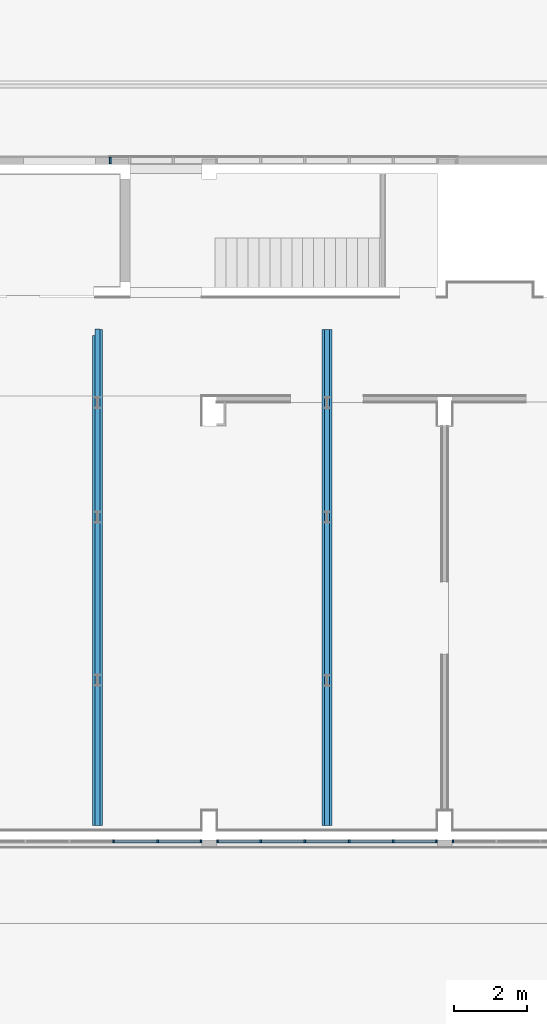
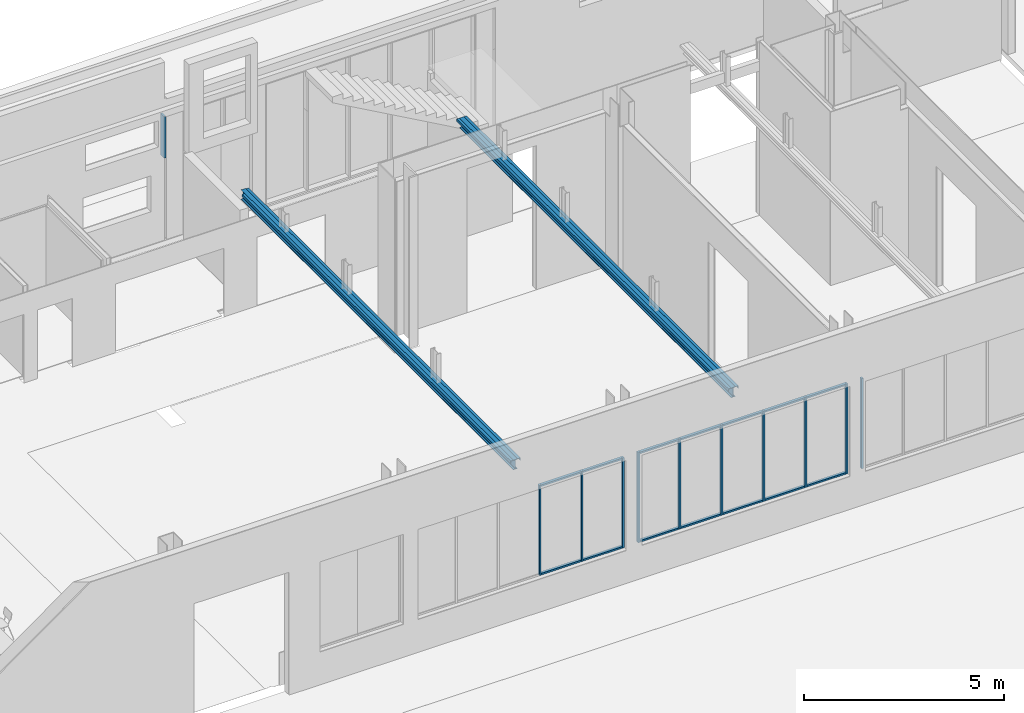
# One storey, part 3 of 27: 25 members, 6 beams, 4 elements without a shape of their own.
"""IFC2X3 building model written with IfcOpenShell, lengths in centimetres."""

import ifcopenshell
import ifcopenshell.guid

model = None  # the IFC model being written
_history = None  # IfcOwnerHistory: only IFC2X3 demands one
_inside = {}  # id of a spatial element -> (the spatial element, [elements in it])
_under = {}  # id of a project, library or spatial element -> (it, [spatial elements below it])
_declared = {}  # id of a project -> (the project, [libraries it declares])
_typed = {}  # id of a type object -> (the type object, [elements of that type])
_made_of = {}  # id of a material, layer set ... -> (it, [elements and type objects made of it])


def new_model(schema):
    """Start an empty IFC model of exactly this schema.

    Asked for "IFC4X3", IfcOpenShell would pick the latest addendum, in which some entities
    have other attributes; the version numbers below select the first issue.
    IFC2X3 requires an IfcOwnerHistory on every rooted entity: one is made here for all.
    """
    global model, _history
    if schema == "IFC4X3":
        model = ifcopenshell.file(schema_version=(4, 3, 0, 0))
    else:
        model = ifcopenshell.file(schema=schema)
    _inside.clear()
    _under.clear()
    _declared.clear()
    _typed.clear()
    _made_of.clear()
    _history = None
    if model.schema == "IFC2X3":
        org = make("IfcOrganization", Name="unknown")
        user = make(
            "IfcPersonAndOrganization",
            ThePerson=make("IfcPerson", FamilyName="unknown"),
            TheOrganization=org,
        )
        app = make(
            "IfcApplication",
            ApplicationDeveloper=org,
            Version="unknown",
            ApplicationFullName="unknown",
            ApplicationIdentifier="unknown",
        )
        _history = make(
            "IfcOwnerHistory",
            OwningUser=user,
            OwningApplication=app,
            ChangeAction="ADDED",
            CreationDate=0,
        )
    return model


def make(cls, **values):
    """One entity of the class cls with the attributes given. An attribute that is None is left unset."""
    return model.create_entity(
        cls, **{name: value for name, value in values.items() if value is not None}
    )


def entity(cls, *values):
    """Any entity or typed value of the class cls, its attributes in the order of the schema. None: left unset."""
    e = model.create_entity(cls)
    for i, value in enumerate(values):
        if value is not None:
            e[i] = value
    return e


def rooted(cls, **values):
    """An entity with a GlobalId (a new one), such as an element, a storey or a relation."""
    return make(cls, GlobalId=ifcopenshell.guid.new(), OwnerHistory=_history, **values)


def si_unit(unit_type, name, prefix=None):
    """IfcSIUnit, for example si_unit("LENGTHUNIT", "METRE", prefix="MILLI")."""
    return make("IfcSIUnit", UnitType=unit_type, Prefix=prefix, Name=name)


def converted_unit(unit_type, name, factor, base, dimensions=None, offset=None):
    """IfcConversionBasedUnit, such as the inch: factor (a typed value) times the base unit."""
    return make(
        "IfcConversionBasedUnit"
        if offset is None
        else "IfcConversionBasedUnitWithOffset",
        ConversionOffset=offset,
        Dimensions=None
        if dimensions is None
        else entity("IfcDimensionalExponents", *dimensions),
        UnitType=unit_type,
        Name=name,
        ConversionFactor=make(
            "IfcMeasureWithUnit", ValueComponent=factor, UnitComponent=base
        ),
    )


def derived_unit(unit_type, elements):
    """IfcDerivedUnit: a product of units, each with its exponent."""
    return make(
        "IfcDerivedUnit",
        Elements=[
            make("IfcDerivedUnitElement", Unit=unit, Exponent=power)
            for unit, power in elements
        ],
        UnitType=unit_type,
    )


def assignment(units):
    """IfcUnitAssignment: the units of a project."""
    return None if units is None else make("IfcUnitAssignment", Units=units)


def point(xyz):
    """IfcCartesianPoint."""
    return None if xyz is None else make("IfcCartesianPoint", Coordinates=xyz)


def direction(xyz):
    """IfcDirection."""
    return None if xyz is None else make("IfcDirection", DirectionRatios=xyz)


def frame(location, z_axis=None, x_axis=None):
    """IfcAxis2Placement3D, a coordinate frame: its origin and axes. An axis left out is left unset."""
    return make(
        "IfcAxis2Placement3D",
        Location=point(location),
        Axis=direction(z_axis),
        RefDirection=direction(x_axis),
    )


def frame_2d(location, x_axis=None):
    """IfcAxis2Placement2D, a coordinate frame in the plane: its origin and x axis."""
    return make(
        "IfcAxis2Placement2D", Location=point(location), RefDirection=direction(x_axis)
    )


def origin():
    """The frame at (0, 0, 0) with its axes left unset."""
    return frame((0.0, 0.0, 0.0))


def origin_2d_with_axis():
    """The frame at (0, 0) in the plane with the x axis (1, 0) written out."""
    return frame_2d((0.0, 0.0), x_axis=(1.0, 0.0))


def place(relative_to, where):
    """IfcLocalPlacement: puts the frame where relative to a parent placement (None: the world)."""
    return make(
        "IfcLocalPlacement", PlacementRelTo=relative_to, RelativePlacement=where
    )


def context(
    kind, dimensions, precision=None, world=None, true_north=None, identifier=None
):
    """IfcGeometricRepresentationContext, for example the 3D "Model" context."""
    return make(
        "IfcGeometricRepresentationContext",
        ContextIdentifier=identifier,
        ContextType=kind,
        CoordinateSpaceDimension=dimensions,
        Precision=precision,
        WorldCoordinateSystem=world,
        TrueNorth=true_north,
    )


def subcontext(parent, identifier, kind, view, scale=None):
    """IfcGeometricRepresentationSubContext, for example "Body" below "Model"."""
    return make(
        "IfcGeometricRepresentationSubContext",
        ContextIdentifier=identifier,
        ContextType=kind,
        ParentContext=parent,
        TargetScale=scale,
        TargetView=view,
    )


def project(units=None, contexts=None):
    """IfcProject with its units and contexts."""
    return rooted(
        "IfcProject",
        Name="project",
        RepresentationContexts=contexts,
        UnitsInContext=assignment(units),
    )


def spatial(cls, under=None, at=None, **own):
    """A site, building, storey or space (cls), placed at a placement, below another one or the project."""
    s = rooted(cls, ObjectPlacement=at, **own)
    if under is not None:
        _under.setdefault(under.id(), (under, []))[1].append(s)
    return s


def polyline(points):
    """IfcPolyline through the points."""
    return make("IfcPolyline", Points=[point(p) for p in points])


def circle_curve(where, radius):
    """IfcCircle in the frame where."""
    return make("IfcCircle", Position=where, Radius=radius)


def parameter(value):
    """IfcParameterValue: where a trimmed curve begins or ends, as a parameter of its basis curve."""
    return model.create_entity("IfcParameterValue", value)


def trimmed(basis, trim1, trim2, sense, master):
    """IfcTrimmedCurve: the piece of a basis curve between two trims."""
    return make(
        "IfcTrimmedCurve",
        BasisCurve=basis,
        Trim1=trim1,
        Trim2=trim2,
        SenseAgreement=sense,
        MasterRepresentation=master,
    )


def segment(curve, same_sense, transition):
    """IfcCompositeCurveSegment."""
    return make(
        "IfcCompositeCurveSegment",
        Transition=transition,
        SameSense=same_sense,
        ParentCurve=curve,
    )


def composite_curve(segments, self_intersect=None):
    """IfcCompositeCurve: segments joined end to end."""
    return make("IfcCompositeCurve", Segments=segments, SelfIntersect=self_intersect)


def profile(cls, at=None, kind="AREA", **sizes):
    """A parametric profile (cls). Its sizes go by their IFC names, for example OverallWidth=200.0."""
    return make(cls, ProfileType=kind, Position=at, **sizes)


def rectangle(**sizes):
    """IfcRectangleProfileDef."""
    return profile("IfcRectangleProfileDef", **sizes)


def outline(outer, holes=None, kind="AREA"):
    """IfcArbitraryClosedProfileDef: a profile drawn as a closed curve; with holes, ...WithVoids."""
    if holes is None:
        return make("IfcArbitraryClosedProfileDef", ProfileType=kind, OuterCurve=outer)
    return make(
        "IfcArbitraryProfileDefWithVoids",
        ProfileType=kind,
        OuterCurve=outer,
        InnerCurves=holes,
    )


def extrude(swept, where, along, depth):
    """IfcExtrudedAreaSolid: the profile swept, set in the frame where, extruded along a direction by depth."""
    return make(
        "IfcExtrudedAreaSolid",
        SweptArea=swept,
        Position=where,
        ExtrudedDirection=direction(along),
        Depth=depth,
    )


def shape(context_of_items, identifier, shape_type, items):
    """IfcShapeRepresentation: the items that make up one representation, for example the "Body"."""
    return make(
        "IfcShapeRepresentation",
        ContextOfItems=context_of_items,
        RepresentationIdentifier=identifier,
        RepresentationType=shape_type,
        Items=items,
    )


def source(mapping_origin, context_of_items, identifier, shape_type, items):
    """IfcRepresentationMap: a shape defined once, which mapped items show again and again."""
    return make(
        "IfcRepresentationMap",
        MappingOrigin=mapping_origin,
        MappedRepresentation=shape(context_of_items, identifier, shape_type, items),
    )


def transform(
    local_origin,
    x_axis=None,
    y_axis=None,
    z_axis=None,
    scale=None,
    scale2=None,
    scale3=None,
    uniform=True,
):
    """IfcCartesianTransformationOperator3D, or its non-uniform kind. x_axis, y_axis, z_axis: its Axis1, 2, 3."""
    if uniform:
        return make(
            "IfcCartesianTransformationOperator3D",
            Axis1=direction(x_axis),
            Axis2=direction(y_axis),
            LocalOrigin=point(local_origin),
            Scale=scale,
            Axis3=direction(z_axis),
        )
    return make(
        "IfcCartesianTransformationOperator3DnonUniform",
        Axis1=direction(x_axis),
        Axis2=direction(y_axis),
        LocalOrigin=point(local_origin),
        Scale=scale,
        Axis3=direction(z_axis),
        Scale2=scale2,
        Scale3=scale3,
    )


def mapped(mapping_source, mapping_target):
    """IfcMappedItem: shows the shape of a source again, moved by a transform."""
    return make(
        "IfcMappedItem", MappingSource=mapping_source, MappingTarget=mapping_target
    )


def material(Name=None, Category=None):
    """IfcMaterial."""
    return make("IfcMaterial", Name=Name, Category=Category)


def made_of(thing, what):
    """Note that an element or type object is made of a material, layer set ...; save() writes the relation."""
    if what is not None:
        _made_of.setdefault(what.id(), (what, []))[1].append(thing)
    return thing


def type_object(cls, material=None, **own):
    """A type object (cls), such as IfcWallType, which elements share."""
    return made_of(rooted(cls, **own), material)


def type_shapes(of_type, sources):
    """Give a type object the sources (RepresentationMaps) that its elements show as mapped items."""
    of_type.RepresentationMaps = sources


def element(
    cls,
    number,
    at=None,
    inside=None,
    cuts=None,
    type_object=None,
    material=None,
    context=None,
    identifier="Body",
    shape_type=None,
    held_by="IfcProductDefinitionShape",
    body=None,
    shapes=None,
    **own,
):
    """One element of the class cls, such as IfcWall. Its Tag is "e" and its number.

    at: its placement. inside: the storey or other place that contains it. cuts: it is an
    opening in that element (IfcRelVoidsElement). A single representation is given by context,
    identifier, shape_type and body (its items); several are given by shapes. held_by: the class
    of the entity that holds the representations. save() writes the other relations.
    """
    e = rooted(cls, Tag="e%d" % number, ObjectPlacement=at, **own)
    if body is not None:
        shapes = [shape(context, identifier, shape_type, body)]
    if shapes is not None:
        e.Representation = make(held_by, Representations=shapes)
    if inside is not None:
        _inside.setdefault(inside.id(), (inside, []))[1].append(e)
    if cuts is not None:
        rooted(
            "IfcRelVoidsElement", RelatingBuildingElement=cuts, RelatedOpeningElement=e
        )
    if type_object is not None:
        _typed.setdefault(type_object.id(), (type_object, []))[1].append(e)
    return made_of(e, material)


def aggregate(whole, parts):
    """IfcRelAggregates: a whole, such as a stair, and the parts it consists of."""
    return rooted("IfcRelAggregates", RelatingObject=whole, RelatedObjects=parts)


def save(model, path):
    """Write the relations noted so far, then the file.

    IfcRelAggregates (storeys below a building ...), IfcRelContainedInSpatialStructure (elements
    in a storey), IfcRelDefinesByType, IfcRelAssociatesMaterial and IfcRelDeclares: one each for
    every whole, place, type object, material and project.
    """
    for whole, parts in _under.values():
        aggregate(whole, parts)
    for where, things in _inside.values():
        rooted(
            "IfcRelContainedInSpatialStructure",
            RelatedElements=things,
            RelatingStructure=where,
        )
    for kind, things in _typed.values():
        rooted("IfcRelDefinesByType", RelatedObjects=things, RelatingType=kind)
    for what, things in _made_of.values():
        rooted("IfcRelAssociatesMaterial", RelatedObjects=things, RelatingMaterial=what)
    for by, libraries in _declared.values():
        rooted("IfcRelDeclares", RelatingContext=by, RelatedDefinitions=libraries)
    model.write(path)


model = new_model("IFC2X3")

# Units and contexts
model_context = context("Model", 3, precision=0.001, world=origin(), true_north=direction((6.12303176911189e-17, 1.0)))
body_context = subcontext(model_context, "Body", "Model", "MODEL_VIEW")
ifc_project = project(units=[si_unit("LENGTHUNIT", "METRE", prefix="CENTI"), si_unit("AREAUNIT", "SQUARE_METRE"), si_unit("VOLUMEUNIT", "CUBIC_METRE"), converted_unit("PLANEANGLEUNIT", "DEGREE", entity("IfcRatioMeasure", 0.0174532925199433), si_unit("PLANEANGLEUNIT", "RADIAN"), dimensions=[0, 0, 0, 0, 0, 0, 0]), si_unit("MASSUNIT", "GRAM", prefix="KILO"), derived_unit("MASSDENSITYUNIT", [(si_unit("MASSUNIT", "GRAM", prefix="KILO"), 1), (si_unit("LENGTHUNIT", "METRE"), -3)]), derived_unit("MOMENTOFINERTIAUNIT", [(si_unit("LENGTHUNIT", "METRE"), 4)]), si_unit("TIMEUNIT", "SECOND"), si_unit("FREQUENCYUNIT", "HERTZ"), si_unit("THERMODYNAMICTEMPERATUREUNIT", "DEGREE_CELSIUS"), derived_unit("THERMALTRANSMITTANCEUNIT", [(si_unit("MASSUNIT", "GRAM", prefix="KILO"), 1), (si_unit("THERMODYNAMICTEMPERATUREUNIT", "KELVIN"), -1), (si_unit("TIMEUNIT", "SECOND"), -3)]), derived_unit("VOLUMETRICFLOWRATEUNIT", [(si_unit("LENGTHUNIT", "METRE"), 3), (si_unit("TIMEUNIT", "SECOND"), -1)]), si_unit("ELECTRICCURRENTUNIT", "AMPERE"), si_unit("ELECTRICVOLTAGEUNIT", "VOLT"), si_unit("POWERUNIT", "WATT"), si_unit("FORCEUNIT", "NEWTON", prefix="KILO"), si_unit("ILLUMINANCEUNIT", "LUX"), si_unit("LUMINOUSFLUXUNIT", "LUMEN"), si_unit("LUMINOUSINTENSITYUNIT", "CANDELA"), derived_unit("USERDEFINED", [(si_unit("MASSUNIT", "GRAM", prefix="KILO"), -1), (si_unit("LENGTHUNIT", "METRE"), -2), (si_unit("TIMEUNIT", "SECOND"), 3), (si_unit("LUMINOUSFLUXUNIT", "LUMEN"), 1)]), derived_unit("LINEARVELOCITYUNIT", [(si_unit("LENGTHUNIT", "METRE"), 1), (si_unit("TIMEUNIT", "SECOND"), -1)]), si_unit("PRESSUREUNIT", "PASCAL"), derived_unit("USERDEFINED", [(si_unit("LENGTHUNIT", "METRE"), -2), (si_unit("MASSUNIT", "GRAM", prefix="KILO"), 1), (si_unit("TIMEUNIT", "SECOND"), -2)]), derived_unit("LINEARFORCEUNIT", [(si_unit("MASSUNIT", "GRAM", prefix="KILO"), 1), (si_unit("LENGTHUNIT", "METRE"), 1), (si_unit("TIMEUNIT", "SECOND"), -2), (si_unit("LENGTHUNIT", "METRE"), -1)]), derived_unit("PLANARFORCEUNIT", [(si_unit("MASSUNIT", "GRAM", prefix="KILO"), 1), (si_unit("LENGTHUNIT", "METRE"), 1), (si_unit("TIMEUNIT", "SECOND"), -2), (si_unit("LENGTHUNIT", "METRE"), -2)])], contexts=[model_context])

# Site, building, storey
site_placement = place(None, origin())
site = spatial("IfcSite", under=ifc_project, at=site_placement, Name="Default", CompositionType="ELEMENT")
building_placement = place(site_placement, origin())
building = spatial("IfcBuilding", under=site, at=building_placement, CompositionType="ELEMENT")
storey_placement = place(building_placement, origin())
storey = spatial("IfcBuildingStorey", under=building, at=storey_placement, Name="Poziom 0 A +/-0,00", CompositionType="ELEMENT", Elevation=3.38570427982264e-11)

# Curtain wall, member
curtain_wall_type_1 = type_object("IfcCurtainWallType", PredefinedType="NOTDEFINED")
curtain_wall_1_placement = place(storey_placement, origin())
curtain_wall_1 = element("IfcCurtainWall", 1, at=curtain_wall_1_placement, inside=storey, type_object=curtain_wall_type_1)
ifc_material_1 = material(Name="Aluminium")
member_type_1 = type_object("IfcMemberType", Name="Prostokątny szpros:50 x 80mm", PredefinedType="MULLION", material=ifc_material_1)
shared_shape_1 = source(origin(), body_context, "Body", "SweptSolid", [
    extrude(rectangle(XDim=8.0, YDim=5.0, at=origin_2d_with_axis()), frame((-2.5, 0.0, -113.500173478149), z_axis=(0.0, 0.0, 1.0), x_axis=(0.0, -1.0, 0.0)), (0.0, 0.0, 1.0), 113.500173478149),
])
type_shapes(member_type_1, [shared_shape_1])
member_1_placement = place(curtain_wall_1_placement, frame((-1004.26499208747, 251.127499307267, 375.0), z_axis=(1.0, 0.0, 0.0), x_axis=(0.0, 0.0, 1.0)))
member_1 = element("IfcMember", 2, at=member_1_placement, type_object=member_type_1, Name="Prostokątny szpros:50 x 80mm", ObjectType="Prostokątny szpros:50 x 80mm", context=body_context, shape_type="MappedRepresentation", body=[
    mapped(shared_shape_1, transform((0.0, 0.0, 0.0), scale=1.0)),
])

# Curtain wall, members
curtain_wall_2_placement = place(storey_placement, origin())
curtain_wall_2 = element("IfcCurtainWall", 3, at=curtain_wall_2_placement, inside=storey, type_object=curtain_wall_type_1)
member_2_placement = place(curtain_wall_2_placement, frame((-359.264992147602, 251.127499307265, 375.0), z_axis=(1.0, 0.0, 0.0), x_axis=(0.0, 0.0, 1.0)))
member_2 = element("IfcMember", 4, at=member_2_placement, type_object=member_type_1, Name="Prostokątny szpros:50 x 80mm", ObjectType="Prostokątny szpros:50 x 80mm", context=body_context, shape_type="MappedRepresentation", body=[
    mapped(shared_shape_1, transform((0.0, 0.0, 0.0), scale=1.0)),
])
member_3_placement = place(curtain_wall_2_placement, frame((-840.762679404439, 251.127499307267, 375.0), z_axis=(1.0, 0.0, 0.0), x_axis=(0.0, 0.0, 1.0)))
member_3 = element("IfcMember", 5, at=member_3_placement, type_object=member_type_1, Name="Prostokątny szpros:50 x 80mm", ObjectType="Prostokątny szpros:50 x 80mm", context=body_context, shape_type="MappedRepresentation", body=[
    mapped(shared_shape_1, transform((0.0, 0.0, 0.0), scale=1.0)),
])

# Member
member_type_2 = type_object("IfcMemberType", Name="Prostokątny szpros:50 x 80mm", PredefinedType="MULLION", material=ifc_material_1)
shared_shape_2 = source(origin(), body_context, "Body", "SweptSolid", [
    extrude(rectangle(XDim=8.0, YDim=5.0, at=origin_2d_with_axis()), frame((-2.5, 0.0, -113.500173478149), z_axis=(0.0, 0.0, 1.0), x_axis=(0.0, -1.0, 0.0)), (0.0, 0.0, 1.0), 113.500173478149),
])
type_shapes(member_type_2, [shared_shape_2])
member_4_placement = place(curtain_wall_1_placement, frame((-1117.76267511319, 251.127499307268, 100.0), z_axis=(-1.0, 0.0, 0.0), x_axis=(0.0, 0.0, -1.0)))
member_4 = element("IfcMember", 6, at=member_4_placement, type_object=member_type_2, Name="Prostokątny szpros:50 x 80mm", ObjectType="Prostokątny szpros:50 x 80mm", context=body_context, shape_type="MappedRepresentation", body=[
    mapped(shared_shape_2, transform((0.0, 0.0, 0.0), scale=1.0)),
])

member_5_placement = place(curtain_wall_2_placement, frame((-954.264988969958, 251.127499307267, 100.0), z_axis=(-1.0, 0.0, 0.0), x_axis=(0.0, 0.0, -1.0)))
member_5 = element("IfcMember", 7, at=member_5_placement, type_object=member_type_2, Name="Prostokątny szpros:50 x 80mm", ObjectType="Prostokątny szpros:50 x 80mm", context=body_context, shape_type="MappedRepresentation", body=[
    mapped(shared_shape_2, transform((0.0, 0.0, 0.0), scale=1.0)),
])

member_6_placement = place(curtain_wall_2_placement, frame((-472.762675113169, 251.127499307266, 100.0), z_axis=(-1.0, 0.0, 0.0), x_axis=(0.0, 0.0, -1.0)))
member_6 = element("IfcMember", 8, at=member_6_placement, type_object=member_type_2, Name="Prostokątny szpros:50 x 80mm", ObjectType="Prostokątny szpros:50 x 80mm", context=body_context, shape_type="MappedRepresentation", body=[
    mapped(shared_shape_2, transform((0.0, 0.0, 0.0), scale=1.0)),
])

member_type_3 = type_object("IfcMemberType", Name="Prostokątny szpros:50 x 80mm", PredefinedType="MULLION", material=ifc_material_1)
shared_shape_3 = source(origin(), body_context, "Body", "SweptSolid", [
    extrude(rectangle(XDim=8.0, YDim=5.0, at=origin_2d_with_axis()), frame((-2.5, 0.0, -275.0), z_axis=(0.0, 0.0, 1.0), x_axis=(0.0, -1.0, 0.0)), (0.0, 0.0, 1.0), 274.999999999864),
])
type_shapes(member_type_3, [shared_shape_3])
member_7_placement = place(curtain_wall_1_placement, frame((-999.264992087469, 251.127499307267, 100.0), z_axis=(0.0, 0.0, -1.0), x_axis=(1.0, 0.0, 0.0)))
member_7 = element("IfcMember", 9, at=member_7_placement, type_object=member_type_3, Name="Prostokątny szpros:50 x 80mm", ObjectType="Prostokątny szpros:50 x 80mm", context=body_context, shape_type="MappedRepresentation", body=[
    mapped(shared_shape_3, transform((0.0, 0.0, 0.0), scale=1.0)),
])

member_8_placement = place(curtain_wall_2_placement, frame((-354.264992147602, 251.127499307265, 100.0), z_axis=(0.0, 0.0, -1.0), x_axis=(1.0, 0.0, 0.0)))
member_8 = element("IfcMember", 10, at=member_8_placement, type_object=member_type_3, Name="Prostokątny szpros:50 x 80mm", ObjectType="Prostokątny szpros:50 x 80mm", context=body_context, shape_type="MappedRepresentation", body=[
    mapped(shared_shape_3, transform((0.0, 0.0, 0.0), scale=1.0)),
])

member_type_4 = type_object("IfcMemberType", Name="Prostokątny szpros:50 x 80mm", PredefinedType="MULLION", material=ifc_material_1)
shared_shape_4 = source(origin(), body_context, "Body", "SweptSolid", [
    extrude(rectangle(XDim=8.0, YDim=5.0, at=origin_2d_with_axis()), frame((-2.5, 0.0, -275.0), z_axis=(0.0, 0.0, 1.0), x_axis=(0.0, -1.0, 0.0)), (0.0, 0.0, 1.0), 274.999999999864),
])
type_shapes(member_type_4, [shared_shape_4])
member_9_placement = place(curtain_wall_2_placement, frame((-959.264988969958, 251.127499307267, 375.0), z_axis=(0.0, 0.0, 1.0), x_axis=(-1.0, 0.0, 0.0)))
member_9 = element("IfcMember", 11, at=member_9_placement, type_object=member_type_4, Name="Prostokątny szpros:50 x 80mm", ObjectType="Prostokątny szpros:50 x 80mm", context=body_context, shape_type="MappedRepresentation", body=[
    mapped(shared_shape_4, transform((0.0, 0.0, 0.0), scale=1.0)),
])

# Curtain wall, member
curtain_wall_3_placement = place(storey_placement, origin())
curtain_wall_3 = element("IfcCurtainWall", 12, at=curtain_wall_3_placement, inside=storey, type_object=curtain_wall_type_1)
member_10_placement = place(curtain_wall_3_placement, frame((-314.264988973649, 251.127499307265, 375.0), z_axis=(0.0, 0.0, 1.0), x_axis=(-1.0, 0.0, 0.0)))
member_10 = element("IfcMember", 13, at=member_10_placement, type_object=member_type_4, Name="Prostokątny szpros:50 x 80mm", ObjectType="Prostokątny szpros:50 x 80mm", context=body_context, shape_type="MappedRepresentation", body=[
    mapped(shared_shape_4, transform((0.0, 0.0, 0.0), scale=1.0)),
])
aggregate(curtain_wall_3, [member_10])

# Member
member_type_5 = type_object("IfcMemberType", Name="Prostokątny szpros:50 x 80mm", PredefinedType="MULLION", material=ifc_material_1)
shared_shape_5 = source(origin(), body_context, "Body", "SweptSolid", [
    extrude(rectangle(XDim=8.0, YDim=5.0, at=origin_2d_with_axis()), frame((-2.5, 0.0, -116.002333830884), z_axis=(0.0, 0.0, 1.0), x_axis=(0.0, -1.0, 0.0)), (0.0, 0.0, 1.0), 116.002333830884),
])
type_shapes(member_type_5, [shared_shape_5])
member_11_placement = place(curtain_wall_1_placement, frame((-1238.76267511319, 251.127499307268, 100.0), z_axis=(-1.0, 0.0, 0.0), x_axis=(0.0, 0.0, -1.0)))
member_11 = element("IfcMember", 14, at=member_11_placement, type_object=member_type_5, Name="Prostokątny szpros:50 x 80mm", ObjectType="Prostokątny szpros:50 x 80mm", context=body_context, shape_type="MappedRepresentation", body=[
    mapped(shared_shape_5, transform((0.0, 0.0, 0.0), scale=1.0)),
])

member_12_placement = place(curtain_wall_2_placement, frame((-835.762679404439, 251.127499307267, 100.0), z_axis=(-1.0, 0.0, 0.0), x_axis=(0.0, 0.0, -1.0)))
member_12 = element("IfcMember", 15, at=member_12_placement, type_object=member_type_5, Name="Prostokątny szpros:50 x 80mm", ObjectType="Prostokątny szpros:50 x 80mm", context=body_context, shape_type="MappedRepresentation", body=[
    mapped(shared_shape_5, transform((0.0, 0.0, 0.0), scale=1.0)),
])

member_13_placement = place(curtain_wall_2_placement, frame((-714.762679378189, 251.127499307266, 100.0), z_axis=(-1.0, 0.0, 0.0), x_axis=(0.0, 0.0, -1.0)))
member_13 = element("IfcMember", 16, at=member_13_placement, type_object=member_type_5, Name="Prostokątny szpros:50 x 80mm", ObjectType="Prostokątny szpros:50 x 80mm", context=body_context, shape_type="MappedRepresentation", body=[
    mapped(shared_shape_5, transform((0.0, 0.0, 0.0), scale=1.0)),
])

member_14_placement = place(curtain_wall_2_placement, frame((-593.762675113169, 251.127499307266, 100.0), z_axis=(-1.0, 0.0, 0.0), x_axis=(0.0, 0.0, -1.0)))
member_14 = element("IfcMember", 17, at=member_14_placement, type_object=member_type_5, Name="Prostokątny szpros:50 x 80mm", ObjectType="Prostokątny szpros:50 x 80mm", context=body_context, shape_type="MappedRepresentation", body=[
    mapped(shared_shape_5, transform((0.0, 0.0, 0.0), scale=1.0)),
])

member_type_6 = type_object("IfcMemberType", Name="Prostokątny szpros:50 x 80mm", PredefinedType="MULLION", material=ifc_material_1)
shared_shape_6 = source(origin(), body_context, "Body", "SweptSolid", [
    extrude(rectangle(XDim=8.0, YDim=5.0, at=origin_2d_with_axis()), frame((0.0, 0.0, -275.0), z_axis=(0.0, 0.0, 1.0), x_axis=(0.0, -1.0, 0.0)), (0.0, 0.0, 1.0), 274.999999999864),
])
type_shapes(member_type_6, [shared_shape_6])
member_15_placement = place(curtain_wall_1_placement, frame((-1241.26267511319, 251.127499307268, 100.0), z_axis=(0.0, 0.0, -1.0), x_axis=(1.0, 0.0, 0.0)))
member_15 = element("IfcMember", 18, at=member_15_placement, type_object=member_type_6, Name="Prostokątny szpros:50 x 80mm", ObjectType="Prostokątny szpros:50 x 80mm", context=body_context, shape_type="MappedRepresentation", body=[
    mapped(shared_shape_6, transform((0.0, 0.0, 0.0), scale=1.0)),
])

member_16_placement = place(curtain_wall_1_placement, frame((-1120.26267511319, 251.127499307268, 100.0), z_axis=(0.0, 0.0, -1.0), x_axis=(1.0, 0.0, 0.0)))
member_16 = element("IfcMember", 19, at=member_16_placement, type_object=member_type_6, Name="Prostokątny szpros:50 x 80mm", ObjectType="Prostokątny szpros:50 x 80mm", context=body_context, shape_type="MappedRepresentation", body=[
    mapped(shared_shape_6, transform((0.0, 0.0, 0.0), scale=1.0)),
])

member_17_placement = place(curtain_wall_2_placement, frame((-838.262679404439, 251.127499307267, 100.0), z_axis=(0.0, 0.0, -1.0), x_axis=(1.0, 0.0, 0.0)))
member_17 = element("IfcMember", 20, at=member_17_placement, type_object=member_type_6, Name="Prostokątny szpros:50 x 80mm", ObjectType="Prostokątny szpros:50 x 80mm", context=body_context, shape_type="MappedRepresentation", body=[
    mapped(shared_shape_6, transform((0.0, 0.0, 0.0), scale=1.0)),
])

member_18_placement = place(curtain_wall_2_placement, frame((-717.262679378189, 251.127499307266, 100.0), z_axis=(0.0, 0.0, -1.0), x_axis=(1.0, 0.0, 0.0)))
member_18 = element("IfcMember", 21, at=member_18_placement, type_object=member_type_6, Name="Prostokątny szpros:50 x 80mm", ObjectType="Prostokątny szpros:50 x 80mm", context=body_context, shape_type="MappedRepresentation", body=[
    mapped(shared_shape_6, transform((0.0, 0.0, 0.0), scale=1.0)),
])

member_19_placement = place(curtain_wall_2_placement, frame((-596.262675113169, 251.127499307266, 100.0), z_axis=(0.0, 0.0, -1.0), x_axis=(1.0, 0.0, 0.0)))
member_19 = element("IfcMember", 22, at=member_19_placement, type_object=member_type_6, Name="Prostokątny szpros:50 x 80mm", ObjectType="Prostokątny szpros:50 x 80mm", context=body_context, shape_type="MappedRepresentation", body=[
    mapped(shared_shape_6, transform((0.0, 0.0, 0.0), scale=1.0)),
])

member_20_placement = place(curtain_wall_2_placement, frame((-475.262675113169, 251.127499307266, 100.0), z_axis=(0.0, 0.0, -1.0), x_axis=(1.0, 0.0, 0.0)))
member_20 = element("IfcMember", 23, at=member_20_placement, type_object=member_type_6, Name="Prostokątny szpros:50 x 80mm", ObjectType="Prostokątny szpros:50 x 80mm", context=body_context, shape_type="MappedRepresentation", body=[
    mapped(shared_shape_6, transform((0.0, 0.0, 0.0), scale=1.0)),
])

member_type_7 = type_object("IfcMemberType", Name="Prostokątny szpros:50 x 80mm", PredefinedType="MULLION", material=ifc_material_1)
shared_shape_7 = source(origin(), body_context, "Body", "SweptSolid", [
    extrude(rectangle(XDim=8.0, YDim=5.0, at=origin_2d_with_axis()), frame((-2.5, 0.0, -116.002333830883), z_axis=(0.0, 0.0, 1.0), x_axis=(0.0, -1.0, 0.0)), (0.0, 0.0, 1.0), 116.002333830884),
])
type_shapes(member_type_7, [shared_shape_7])
member_21_placement = place(curtain_wall_1_placement, frame((-1122.76267511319, 251.127499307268, 375.0), z_axis=(1.0, 0.0, 0.0), x_axis=(0.0, 0.0, 1.0)))
member_21 = element("IfcMember", 24, at=member_21_placement, type_object=member_type_7, Name="Prostokątny szpros:50 x 80mm", ObjectType="Prostokątny szpros:50 x 80mm", context=body_context, shape_type="MappedRepresentation", body=[
    mapped(shared_shape_7, transform((0.0, 0.0, 0.0), scale=1.0)),
])

aggregate(curtain_wall_1, [member_1, member_7, member_11, member_15, member_21, member_4, member_16])

member_22_placement = place(curtain_wall_2_placement, frame((-719.762679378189, 251.127499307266, 375.0), z_axis=(1.0, 0.0, 0.0), x_axis=(0.0, 0.0, 1.0)))
member_22 = element("IfcMember", 25, at=member_22_placement, type_object=member_type_7, Name="Prostokątny szpros:50 x 80mm", ObjectType="Prostokątny szpros:50 x 80mm", context=body_context, shape_type="MappedRepresentation", body=[
    mapped(shared_shape_7, transform((0.0, 0.0, 0.0), scale=1.0)),
])

member_23_placement = place(curtain_wall_2_placement, frame((-598.762675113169, 251.127499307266, 375.0), z_axis=(1.0, 0.0, 0.0), x_axis=(0.0, 0.0, 1.0)))
member_23 = element("IfcMember", 26, at=member_23_placement, type_object=member_type_7, Name="Prostokątny szpros:50 x 80mm", ObjectType="Prostokątny szpros:50 x 80mm", context=body_context, shape_type="MappedRepresentation", body=[
    mapped(shared_shape_7, transform((0.0, 0.0, 0.0), scale=1.0)),
])

member_24_placement = place(curtain_wall_2_placement, frame((-477.762675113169, 251.127499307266, 375.0), z_axis=(1.0, 0.0, 0.0), x_axis=(0.0, 0.0, 1.0)))
member_24 = element("IfcMember", 27, at=member_24_placement, type_object=member_type_7, Name="Prostokątny szpros:50 x 80mm", ObjectType="Prostokątny szpros:50 x 80mm", context=body_context, shape_type="MappedRepresentation", body=[
    mapped(shared_shape_7, transform((0.0, 0.0, 0.0), scale=1.0)),
])

aggregate(curtain_wall_2, [member_2, member_5, member_8, member_9, member_3, member_12, member_17, member_22, member_13, member_18, member_23, member_14, member_19, member_24, member_6, member_20])

# Beams
ifc_material_2 = material(Name="Stal konstrukcyjna - S235")
beam_type_1 = type_object("IfcBeamType", Name="IN:IN300", PredefinedType="NOTDEFINED")
beam_1_placement = place(storey_placement, frame((-656.765099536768, 295.127657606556, 440.0), z_axis=(0.0, 0.0, 1.0), x_axis=(0.0, 1.0, 0.0)))
element("IfcBeam", 28, at=beam_1_placement, inside=storey, type_object=beam_type_1, material=ifc_material_2, Name="IN:IN300", ObjectType="IN:IN300", context=body_context, shape_type="SweptSolid", body=[
    extrude(outline(composite_curve([segment(polyline([(14.3828568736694, -6.24999999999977), (15.0, -6.24999999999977)]), True, "CONTINUOUS"), segment(polyline([(15.0, -6.24999999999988), (15.0, 6.2500000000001)]), True, "CONTINUOUS"), segment(polyline([(15.0, 6.2500000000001), (14.3828568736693, 6.2500000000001)]), True, "CONTINUOUS"), segment(trimmed(circle_curve(frame_2d((14.3828568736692, 5.60000000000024), x_axis=(0.0, 1.0)), 0.64999999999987), [parameter(0.0)], [parameter(82.0300000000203)], True, "PARAMETER"), True, "CONTINUOUS"), segment(polyline([(13.7391353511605, 5.69012547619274), (13.1483239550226, 1.47025305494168)]), True, "CONTINUOUS"), segment(trimmed(circle_curve(frame_2d((12.0787558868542, 1.62000000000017), x_axis=(0.9903408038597, -0.138654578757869)), 1.07999999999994), [parameter(277.969999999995)], [parameter(0.0)], True, "PARAMETER"), False, "CONTINUOUS"), segment(polyline([(12.0787558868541, 0.54000000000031), (-12.078755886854, 0.540000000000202)]), True, "CONTINUOUS"), segment(trimmed(circle_curve(frame_2d((-12.0787558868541, 1.62000000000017), x_axis=(0.0, -1.0)), 1.07999999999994), [parameter(277.969999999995)], [parameter(0.0)], True, "PARAMETER"), False, "CONTINUOUS"), segment(polyline([(-13.1483239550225, 1.47025305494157), (-13.7391353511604, 5.69012547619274)]), True, "CONTINUOUS"), segment(trimmed(circle_curve(frame_2d((-14.3828568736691, 5.60000000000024), x_axis=(0.990340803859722, 0.138654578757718)), 0.649999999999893), [parameter(0.0)], [parameter(82.0300000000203)], True, "PARAMETER"), True, "CONTINUOUS"), segment(polyline([(-14.3828568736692, 6.2500000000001), (-15.0, 6.2500000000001)]), True, "CONTINUOUS"), segment(polyline([(-15.0, 6.2500000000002), (-15.0, -6.24999999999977)]), True, "CONTINUOUS"), segment(polyline([(-15.0, -6.24999999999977), (-14.3828568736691, -6.24999999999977)]), True, "CONTINUOUS"), segment(trimmed(circle_curve(frame_2d((-14.382856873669, -5.59999999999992), x_axis=(0.0, -1.0)), 0.649999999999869), [parameter(0.0)], [parameter(82.0300000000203)], True, "PARAMETER"), True, "CONTINUOUS"), segment(polyline([(-13.7391353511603, -5.69012547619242), (-13.1483239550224, -1.47025305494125)]), True, "CONTINUOUS"), segment(trimmed(circle_curve(frame_2d((-12.078755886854, -1.61999999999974), x_axis=(-0.9903408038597, 0.138654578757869)), 1.07999999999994), [parameter(277.969999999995)], [parameter(0.0)], True, "PARAMETER"), False, "CONTINUOUS"), segment(polyline([(-12.078755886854, -0.539999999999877), (12.0787558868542, -0.539999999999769)]), True, "CONTINUOUS"), segment(trimmed(circle_curve(frame_2d((12.0787558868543, -1.61999999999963), x_axis=(0.0, 1.0)), 1.07999999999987), [parameter(277.969999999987)], [parameter(0.0)], True, "PARAMETER"), False, "CONTINUOUS"), segment(polyline([(13.1483239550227, -1.47025305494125), (13.7391353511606, -5.69012547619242)]), True, "CONTINUOUS"), segment(trimmed(circle_curve(frame_2d((14.3828568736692, -5.60000000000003), x_axis=(-0.990340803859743, -0.138654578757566)), 0.649999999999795), [parameter(0.0)], [parameter(82.0300000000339)], True, "PARAMETER"), True, "CONTINUOUS")], self_intersect=False)), frame((-0.00513298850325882, 0.0, -15.0), z_axis=(1.0, 0.0, 0.0), x_axis=(0.0, 0.0, -1.0)), (0.0, 0.0, 1.0), 1358.0051329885),
])
beam_2_placement = place(storey_placement, frame((-1285.26508136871, 295.127512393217, 440.0), z_axis=(0.0, 0.0, 1.0), x_axis=(0.0, 1.0, 0.0)))
element("IfcBeam", 29, at=beam_2_placement, inside=storey, type_object=beam_type_1, material=ifc_material_2, Name="IN:IN300", ObjectType="IN:IN300", context=body_context, shape_type="SweptSolid", body=[
    extrude(outline(composite_curve([segment(polyline([(14.3828568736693, -6.24999999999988), (15.0, -6.24999999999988)]), True, "CONTINUOUS"), segment(polyline([(15.0, -6.24999999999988), (15.0, 6.2500000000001)]), True, "CONTINUOUS"), segment(polyline([(15.0, 6.2500000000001), (14.3828568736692, 6.2500000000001)]), True, "CONTINUOUS"), segment(trimmed(circle_curve(frame_2d((14.3828568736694, 5.60000000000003), x_axis=(0.0, 1.0)), 0.650000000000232), [parameter(0.0)], [parameter(82.029999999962)], True, "PARAMETER"), True, "CONTINUOUS"), segment(polyline([(13.7391353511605, 5.69012547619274), (13.1483239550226, 1.47025305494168)]), True, "CONTINUOUS"), segment(trimmed(circle_curve(frame_2d((12.0787558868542, 1.62000000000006), x_axis=(0.990340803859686, -0.138654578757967)), 1.07999999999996), [parameter(277.970000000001)], [parameter(0.0)], True, "PARAMETER"), False, "CONTINUOUS"), segment(polyline([(12.0787558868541, 0.540000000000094), (-12.0787558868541, 0.540000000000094)]), True, "CONTINUOUS"), segment(trimmed(circle_curve(frame_2d((-12.0787558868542, 1.62000000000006), x_axis=(0.0, -1.0)), 1.07999999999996), [parameter(277.970000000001)], [parameter(0.0)], True, "PARAMETER"), False, "CONTINUOUS"), segment(polyline([(-13.1483239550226, 1.47025305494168), (-13.7391353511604, 5.69012547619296)]), True, "CONTINUOUS"), segment(trimmed(circle_curve(frame_2d((-14.3828568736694, 5.60000000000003), x_axis=(0.990340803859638, 0.138654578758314)), 0.650000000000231), [parameter(0.0)], [parameter(82.029999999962)], True, "PARAMETER"), True, "CONTINUOUS"), segment(polyline([(-14.3828568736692, 6.2500000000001), (-15.0, 6.2500000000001)]), True, "CONTINUOUS"), segment(polyline([(-15.0, 6.2500000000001), (-15.0, -6.24999999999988)]), True, "CONTINUOUS"), segment(polyline([(-15.0, -6.24999999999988), (-14.3828568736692, -6.24999999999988)]), True, "CONTINUOUS"), segment(trimmed(circle_curve(frame_2d((-14.3828568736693, -5.59999999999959), x_axis=(0.0, -1.0)), 0.650000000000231), [parameter(0.0)], [parameter(82.029999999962)], True, "PARAMETER"), True, "CONTINUOUS"), segment(polyline([(-13.7391353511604, -5.69012547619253), (-13.1483239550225, -1.47025305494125)]), True, "CONTINUOUS"), segment(trimmed(circle_curve(frame_2d((-12.078755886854, -1.61999999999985), x_axis=(-0.990340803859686, 0.138654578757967)), 1.07999999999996), [parameter(277.970000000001)], [parameter(0.0)], True, "PARAMETER"), False, "CONTINUOUS"), segment(polyline([(-12.078755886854, -0.539999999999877), (12.0787558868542, -0.539999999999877)]), True, "CONTINUOUS"), segment(trimmed(circle_curve(frame_2d((12.0787558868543, -1.61999999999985), x_axis=(0.0, 1.0)), 1.07999999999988), [parameter(277.969999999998)], [parameter(0.0)], True, "PARAMETER"), False, "CONTINUOUS"), segment(polyline([(13.1483239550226, -1.47025305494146), (13.7391353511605, -5.69012547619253)]), True, "CONTINUOUS"), segment(trimmed(circle_curve(frame_2d((14.3828568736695, -5.59999999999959), x_axis=(-0.990340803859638, -0.138654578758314)), 0.650000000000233), [parameter(0.0)], [parameter(82.029999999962)], True, "PARAMETER"), True, "CONTINUOUS")], self_intersect=False)), frame((-0.00513298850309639, 0.0, -15.0), z_axis=(1.0, 0.0, 0.0), x_axis=(0.0, 0.0, -1.0)), (0.0, 0.0, 1.0), 1360.0051329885),
])
beam_type_2 = type_object("IfcBeamType", Name="Równoramienne L:L80x8", PredefinedType="NOTDEFINED")
beam_3_placement = place(storey_placement, frame((-663.015099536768, 278.627657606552, 437.74), z_axis=(0.0, 0.0, 1.0), x_axis=(0.0, 1.0, 0.0)))
element("IfcBeam", 30, at=beam_3_placement, inside=storey, type_object=beam_type_2, material=ifc_material_2, Name="Równoramienne L:L80x8", ObjectType="Równoramienne L:L80x8", context=body_context, shape_type="SweptSolid", body=[
    extrude(outline(composite_curve([segment(polyline([(-3.02222222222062, -4.97777777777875), (-2.72222222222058, -4.97777777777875)]), True, "CONTINUOUS"), segment(trimmed(circle_curve(frame_2d((-2.72222222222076, -4.47777777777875), x_axis=(0.0, -1.0)), 0.499999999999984), [parameter(0.0)], [parameter(90.0000000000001)], True, "PARAMETER"), True, "CONTINUOUS"), segment(polyline([(-2.22222222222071, -4.47777777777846), (-2.22222222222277, 1.22222222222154)]), True, "CONTINUOUS"), segment(trimmed(circle_curve(frame_2d((-1.22222222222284, 1.2222222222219), x_axis=(-1.0, 0.0)), 0.999999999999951), [parameter(269.999999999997)], [parameter(0.0)], True, "PARAMETER"), False, "CONTINUOUS"), segment(polyline([(-1.22222222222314, 2.222222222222), (4.47777777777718, 2.22222222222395)]), True, "CONTINUOUS"), segment(trimmed(circle_curve(frame_2d((4.477777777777, 2.72222222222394), x_axis=(0.0, -1.0)), 0.499999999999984), [parameter(0.0)], [parameter(90.0000000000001)], True, "PARAMETER"), True, "CONTINUOUS"), segment(polyline([(4.977777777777, 2.72222222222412), (4.97777777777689, 3.02222222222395)]), True, "CONTINUOUS"), segment(polyline([(4.97777777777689, 3.02222222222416), (-3.02222222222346, 3.02222222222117)]), True, "CONTINUOUS"), segment(polyline([(-3.02222222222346, 3.02222222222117), (-3.02222222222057, -4.97777777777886)]), True, "CONTINUOUS")], self_intersect=False)), frame((16.4997944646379, 4.97777777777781, -0.762222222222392), z_axis=(1.0, 0.0, 0.0), x_axis=(0.0, 0.0, -1.0)), (0.0, 0.0, 1.0), 1357.99999987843),
])
beam_4_placement = place(storey_placement, frame((-1291.51508136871, 278.627657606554, 437.739999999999), z_axis=(0.0, 0.0, 1.0), x_axis=(0.0, 1.0, 0.0)))
element("IfcBeam", 31, at=beam_4_placement, inside=storey, type_object=beam_type_2, material=ifc_material_2, Name="Równoramienne L:L80x8", ObjectType="Równoramienne L:L80x8", context=body_context, shape_type="SweptSolid", body=[
    extrude(outline(composite_curve([segment(polyline([(-3.02222222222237, -4.97777777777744), (-2.72222222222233, -4.97777777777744)]), True, "CONTINUOUS"), segment(trimmed(circle_curve(frame_2d((-2.7222222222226, -4.47777777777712), x_axis=(0.0, -1.0)), 0.50000000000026), [parameter(0.0)], [parameter(89.9999999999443)], True, "PARAMETER"), True, "CONTINUOUS"), segment(polyline([(-2.22222222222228, -4.47777777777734), (-2.22222222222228, 1.22222222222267)]), True, "CONTINUOUS"), segment(trimmed(circle_curve(frame_2d((-1.22222222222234, 1.22222222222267), x_axis=(-1.0, 0.0)), 0.999999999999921), [parameter(269.999999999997)], [parameter(0.0)], True, "PARAMETER"), False, "CONTINUOUS"), segment(polyline([(-1.22222222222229, 2.22222222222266), (4.47777777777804, 2.22222222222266)]), True, "CONTINUOUS"), segment(trimmed(circle_curve(frame_2d((4.47777777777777, 2.72222222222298), x_axis=(0.0, -1.0)), 0.500000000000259), [parameter(0.0)], [parameter(89.9999999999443)], True, "PARAMETER"), True, "CONTINUOUS"), segment(polyline([(4.97777777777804, 2.72222222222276), (4.97777777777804, 3.02222222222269)]), True, "CONTINUOUS"), segment(polyline([(4.97777777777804, 3.02222222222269), (-3.02222222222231, 3.02222222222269)]), True, "CONTINUOUS"), segment(polyline([(-3.02222222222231, 3.02222222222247), (-3.02222222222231, -4.97777777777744)]), True, "CONTINUOUS")], self_intersect=False)), frame((16.4997944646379, 4.97777777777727, -0.762222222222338), z_axis=(1.0, 0.0, 0.0), x_axis=(0.0, 0.0, -1.0)), (0.0, 0.0, 1.0), 1341.50020553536),
])
beam_5_placement = place(storey_placement, frame((-644.775099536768, 295.127657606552, 432.0), z_axis=(0.0, 0.0, 1.0), x_axis=(0.0, 1.0, 0.0)))
element("IfcBeam", 32, at=beam_5_placement, inside=storey, type_object=beam_type_2, material=ifc_material_2, Name="Równoramienne L:L80x8", ObjectType="Równoramienne L:L80x8", context=body_context, shape_type="SweptSolid", body=[
    extrude(outline(composite_curve([segment(polyline([(-3.02222222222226, -3.02222222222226), (4.97777777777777, -3.02222222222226)]), True, "CONTINUOUS"), segment(polyline([(4.97777777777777, -3.02222222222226), (4.97777777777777, -2.72222222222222)]), True, "CONTINUOUS"), segment(trimmed(circle_curve(frame_2d((4.47777777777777, -2.72222222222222), x_axis=(1.0, 0.0)), 0.499999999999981), [parameter(0.0)], [parameter(90.0000000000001)], True, "PARAMETER"), True, "CONTINUOUS"), segment(polyline([(4.47777777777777, -2.22222222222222), (-1.22222222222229, -2.22222222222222)]), True, "CONTINUOUS"), segment(trimmed(circle_curve(frame_2d((-1.22222222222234, -1.22222222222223), x_axis=(0.0, -1.0)), 0.999999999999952), [parameter(269.999999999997)], [parameter(0.0)], True, "PARAMETER"), False, "CONTINUOUS"), segment(polyline([(-2.22222222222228, -1.22222222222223), (-2.22222222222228, 4.4777777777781)]), True, "CONTINUOUS"), segment(trimmed(circle_curve(frame_2d((-2.72222222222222, 4.4777777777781), x_axis=(1.0, 0.0)), 0.499999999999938), [parameter(0.0)], [parameter(90.0000000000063)], True, "PARAMETER"), True, "CONTINUOUS"), segment(polyline([(-2.72222222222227, 4.97777777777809), (-3.0222222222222, 4.97777777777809)]), True, "CONTINUOUS"), segment(polyline([(-3.0222222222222, 4.9777777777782), (-3.0222222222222, -3.02222222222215)]), True, "CONTINUOUS")], self_intersect=False)), frame((-0.00020553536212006, 0.762222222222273, 4.97777777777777), z_axis=(1.0, 0.0, 0.0), x_axis=(0.0, 0.0, -1.0)), (0.0, 0.0, 1.0), 1358.00020553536),
])
beam_6_placement = place(storey_placement, frame((-1273.27508136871, 295.127657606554, 432.0), z_axis=(0.0, 0.0, 1.0), x_axis=(0.0, 1.0, 0.0)))
element("IfcBeam", 33, at=beam_6_placement, inside=storey, type_object=beam_type_2, material=ifc_material_2, Name="Równoramienne L:L80x8", ObjectType="Równoramienne L:L80x8", context=body_context, shape_type="SweptSolid", body=[
    extrude(outline(composite_curve([segment(polyline([(-3.02222222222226, -3.02222222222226), (4.97777777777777, -3.02222222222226)]), True, "CONTINUOUS"), segment(polyline([(4.97777777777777, -3.02222222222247), (4.97777777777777, -2.72222222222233)]), True, "CONTINUOUS"), segment(trimmed(circle_curve(frame_2d((4.47777777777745, -2.72222222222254), x_axis=(1.0, 0.0)), 0.500000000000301), [parameter(0.0)], [parameter(89.999999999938)], True, "PARAMETER"), True, "CONTINUOUS"), segment(polyline([(4.47777777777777, -2.22222222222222), (-1.22222222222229, -2.22222222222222)]), True, "CONTINUOUS"), segment(trimmed(circle_curve(frame_2d((-1.22222222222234, -1.22222222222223), x_axis=(0.0, -1.0)), 0.999999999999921), [parameter(269.999999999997)], [parameter(0.0)], True, "PARAMETER"), False, "CONTINUOUS"), segment(polyline([(-2.22222222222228, -1.22222222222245), (-2.22222222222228, 4.47777777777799)]), True, "CONTINUOUS"), segment(trimmed(circle_curve(frame_2d((-2.72222222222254, 4.47777777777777), x_axis=(1.0, 0.0)), 0.500000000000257), [parameter(0.0)], [parameter(89.9999999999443)], True, "PARAMETER"), True, "CONTINUOUS"), segment(polyline([(-2.72222222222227, 4.97777777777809), (-3.0222222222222, 4.97777777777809)]), True, "CONTINUOUS"), segment(polyline([(-3.0222222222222, 4.97777777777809), (-3.0222222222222, -3.02222222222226)]), True, "CONTINUOUS")], self_intersect=False)), frame((0.0, 0.762222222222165, 4.97777777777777), z_axis=(1.0, 0.0, 0.0), x_axis=(0.0, 0.0, -1.0)), (0.0, 0.0, 1.0), 1358.0),
])

# Curtain wall, member
curtain_wall_type_2 = type_object("IfcCurtainWallType", PredefinedType="NOTDEFINED")
curtain_wall_4_placement = place(storey_placement, origin())
curtain_wall_4 = element("IfcCurtainWall", 34, at=curtain_wall_4_placement, inside=storey, type_object=curtain_wall_type_2)
member_type_8 = type_object("IfcMemberType", Name="Prostokątny szpros:50 x 175mm", PredefinedType="MULLION", material=ifc_material_1)
shared_shape_8 = source(origin(), body_context, "Body", "SweptSolid", [
    extrude(rectangle(XDim=17.5, YDim=5.0, at=origin_2d_with_axis()), frame((-2.5, 0.0, -127.5), z_axis=(0.0, 0.0, 1.0), x_axis=(0.0, -1.0, 0.0)), (0.0, 0.0, 1.0), 127.5),
])
type_shapes(member_type_8, [shared_shape_8])
member_25_placement = place(curtain_wall_4_placement, frame((-1252.7651152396, 2116.37745208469, 375.0), z_axis=(0.0, 0.0, 1.0), x_axis=(-1.0, 0.0, 0.0)))
member_25 = element("IfcMember", 35, at=member_25_placement, type_object=member_type_8, Name="Prostokątny szpros:50 x 175mm", ObjectType="Prostokątny szpros:50 x 175mm", context=body_context, shape_type="MappedRepresentation", body=[
    mapped(shared_shape_8, transform((0.0, 0.0, 0.0), scale=1.0)),
])
aggregate(curtain_wall_4, [member_25])

save(model, "model.ifc")
